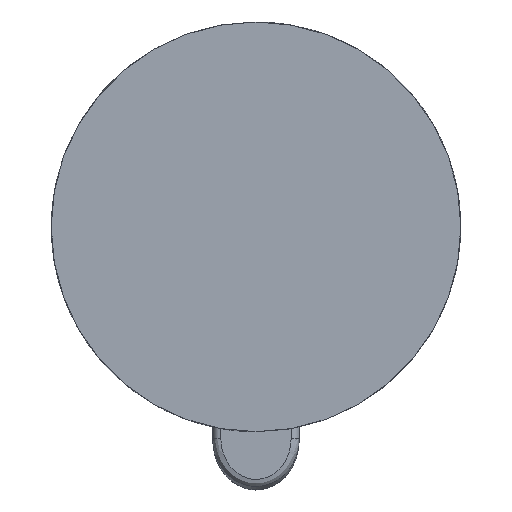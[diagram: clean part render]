
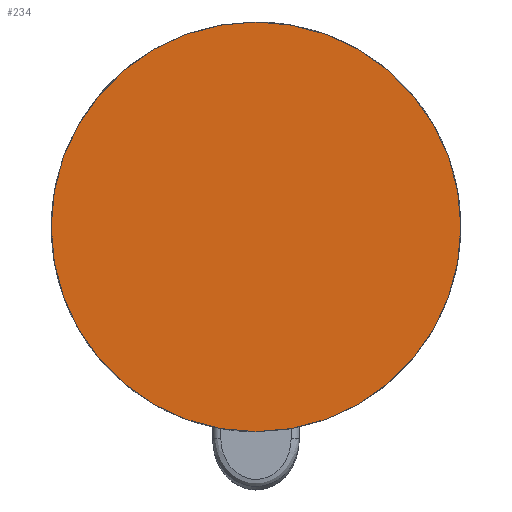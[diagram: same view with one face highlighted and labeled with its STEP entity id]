
A CAD part, top view. The second image highlights one B-rep face of the part: STEP entity #234.
In plain terms, the highlighted planar face has unit normal (0, 0, 1).
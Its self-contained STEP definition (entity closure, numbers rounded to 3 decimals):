
#234 = ADVANCED_FACE ( 'NONE', ( #2449 ), #472, .T. ) ;
#248 = DIRECTION ( 'NONE',  ( 0., 0., -1. ) ) ;
#304 = VERTEX_POINT ( 'NONE', #1918 ) ;
#472 = PLANE ( 'NONE',  #1632 ) ;
#641 = EDGE_CURVE ( 'NONE', #1629, #304, #1069, .T. ) ;
#811 = EDGE_CURVE ( 'NONE', #304, #1629, #1975, .T. ) ;
#883 = EDGE_LOOP ( 'NONE', ( #1689, #2860 ) ) ;
#993 = DIRECTION ( 'NONE',  ( 0., 0., -1. ) ) ;
#1069 = CIRCLE ( 'NONE', #1140, 85. ) ;
#1140 = AXIS2_PLACEMENT_3D ( 'NONE', #2721, #993, #3585 ) ;
#1388 = DIRECTION ( 'NONE',  ( 0., -1., 0. ) ) ;
#1580 = DIRECTION ( 'NONE',  ( 0., -1., 0. ) ) ;
#1617 = CARTESIAN_POINT ( 'NONE',  ( 55., -2.5, 7. ) ) ;
#1629 = VERTEX_POINT ( 'NONE', #1617 ) ;
#1632 = AXIS2_PLACEMENT_3D ( 'NONE', #1939, #2747, #1580 ) ;
#1689 = ORIENTED_EDGE ( 'NONE', *, *, #641, .F. ) ;
#1918 = CARTESIAN_POINT ( 'NONE',  ( 55., 167.5, 7. ) ) ;
#1939 = CARTESIAN_POINT ( 'NONE',  ( 65.31, 166.469, 7. ) ) ;
#1975 = CIRCLE ( 'NONE', #3591, 85. ) ;
#2449 = FACE_OUTER_BOUND ( 'NONE', #883, .T. ) ;
#2721 = CARTESIAN_POINT ( 'NONE',  ( 55., 82.5, 7. ) ) ;
#2747 = DIRECTION ( 'NONE',  ( 0., 0., 1. ) ) ;
#2860 = ORIENTED_EDGE ( 'NONE', *, *, #811, .F. ) ;
#3392 = CARTESIAN_POINT ( 'NONE',  ( 55., 82.5, 7. ) ) ;
#3585 = DIRECTION ( 'NONE',  ( 0., -1., 0. ) ) ;
#3591 = AXIS2_PLACEMENT_3D ( 'NONE', #3392, #248, #1388 ) ;
